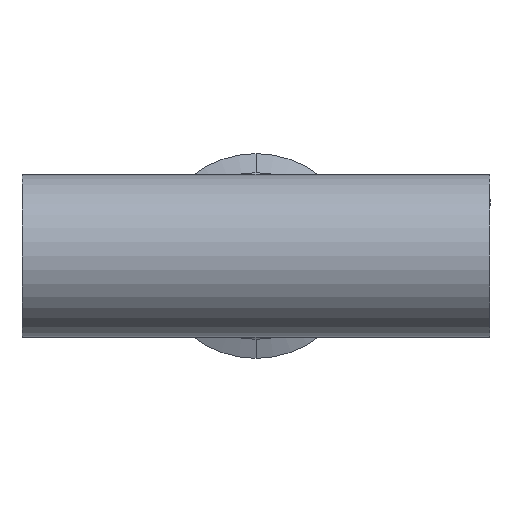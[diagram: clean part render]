
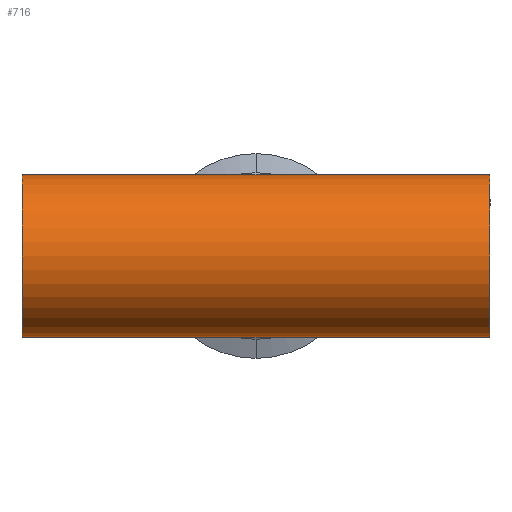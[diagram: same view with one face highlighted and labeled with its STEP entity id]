
A CAD part, front view. The second image highlights one B-rep face of the part: STEP entity #716.
In plain terms, the highlighted cylindrical face has radius 25.4 mm (diameter 50.8 mm), a partial arc.
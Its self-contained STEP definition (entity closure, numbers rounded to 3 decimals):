
#221 = VERTEX_POINT ( 'NONE', #1316 ) ;
#352 = LINE ( 'NONE', #3045, #769 ) ;
#474 = FACE_OUTER_BOUND ( 'NONE', #2043, .T. ) ;
#563 = AXIS2_PLACEMENT_3D ( 'NONE', #2432, #951, #2681 ) ;
#595 = CARTESIAN_POINT ( 'NONE',  ( -73., 0., -25.4 ) ) ;
#690 = CARTESIAN_POINT ( 'NONE',  ( 73., 0., 25.4 ) ) ;
#708 = VECTOR ( 'NONE', #2554, 1000. ) ;
#716 = ADVANCED_FACE ( 'NONE', ( #474 ), #1530, .T. ) ;
#755 = LINE ( 'NONE', #2255, #2651 ) ;
#769 = VECTOR ( 'NONE', #3171, 1000. ) ;
#774 = DIRECTION ( 'NONE',  ( 1., 0., 0. ) ) ;
#777 = EDGE_CURVE ( 'NONE', #221, #1816, #352, .T. ) ;
#872 = VECTOR ( 'NONE', #2530, 1000. ) ;
#951 = DIRECTION ( 'NONE',  ( 1., 0., 0. ) ) ;
#1008 = VERTEX_POINT ( 'NONE', #2323 ) ;
#1028 = EDGE_CURVE ( 'NONE', #3149, #1816, #2831, .T. ) ;
#1036 = CARTESIAN_POINT ( 'NONE',  ( -73., 0., 25.4 ) ) ;
#1127 = VERTEX_POINT ( 'NONE', #1920 ) ;
#1283 = EDGE_CURVE ( 'NONE', #1008, #2551, #2118, .T. ) ;
#1316 = CARTESIAN_POINT ( 'NONE',  ( 0., 0., 25.4 ) ) ;
#1348 = CARTESIAN_POINT ( 'NONE',  ( 73., 0., 0. ) ) ;
#1530 = CYLINDRICAL_SURFACE ( 'NONE', #1979, 25.4 ) ;
#1557 = CARTESIAN_POINT ( 'NONE',  ( 0., 0., -25.4 ) ) ;
#1576 = DIRECTION ( 'NONE',  ( 0., 0., -1. ) ) ;
#1792 = CARTESIAN_POINT ( 'NONE',  ( -73., 0., 0. ) ) ;
#1816 = VERTEX_POINT ( 'NONE', #690 ) ;
#1920 = CARTESIAN_POINT ( 'NONE',  ( -73., 0., 25.4 ) ) ;
#1979 = AXIS2_PLACEMENT_3D ( 'NONE', #1792, #2040, #2052 ) ;
#2018 = ORIENTED_EDGE ( 'NONE', *, *, #3095, .T. ) ;
#2040 = DIRECTION ( 'NONE',  ( 1., 0., 0. ) ) ;
#2043 = EDGE_LOOP ( 'NONE', ( #2403, #2290, #2062, #2018, #2248, #2321 ) ) ;
#2052 = DIRECTION ( 'NONE',  ( 0., 0., -1. ) ) ;
#2062 = ORIENTED_EDGE ( 'NONE', *, *, #1283, .T. ) ;
#2118 = LINE ( 'NONE', #595, #708 ) ;
#2195 = LINE ( 'NONE', #1036, #872 ) ;
#2248 = ORIENTED_EDGE ( 'NONE', *, *, #1028, .T. ) ;
#2255 = CARTESIAN_POINT ( 'NONE',  ( -73., 0., -25.4 ) ) ;
#2290 = ORIENTED_EDGE ( 'NONE', *, *, #2667, .T. ) ;
#2321 = ORIENTED_EDGE ( 'NONE', *, *, #777, .F. ) ;
#2323 = CARTESIAN_POINT ( 'NONE',  ( -73., 0., -25.4 ) ) ;
#2403 = ORIENTED_EDGE ( 'NONE', *, *, #2497, .F. ) ;
#2432 = CARTESIAN_POINT ( 'NONE',  ( -73., 0., 0. ) ) ;
#2497 = EDGE_CURVE ( 'NONE', #1127, #221, #2195, .T. ) ;
#2530 = DIRECTION ( 'NONE',  ( 1., 0., 0. ) ) ;
#2551 = VERTEX_POINT ( 'NONE', #1557 ) ;
#2554 = DIRECTION ( 'NONE',  ( 1., 0., 0. ) ) ;
#2563 = AXIS2_PLACEMENT_3D ( 'NONE', #1348, #3054, #1576 ) ;
#2651 = VECTOR ( 'NONE', #774, 1000. ) ;
#2667 = EDGE_CURVE ( 'NONE', #1127, #1008, #2693, .T. ) ;
#2681 = DIRECTION ( 'NONE',  ( 0., 0., -1. ) ) ;
#2693 = CIRCLE ( 'NONE', #563, 25.4 ) ;
#2757 = CARTESIAN_POINT ( 'NONE',  ( 73., 0., -25.4 ) ) ;
#2831 = CIRCLE ( 'NONE', #2563, 25.4 ) ;
#3045 = CARTESIAN_POINT ( 'NONE',  ( -73., 0., 25.4 ) ) ;
#3054 = DIRECTION ( 'NONE',  ( -1., 0., 0. ) ) ;
#3095 = EDGE_CURVE ( 'NONE', #2551, #3149, #755, .T. ) ;
#3149 = VERTEX_POINT ( 'NONE', #2757 ) ;
#3171 = DIRECTION ( 'NONE',  ( 1., 0., 0. ) ) ;
